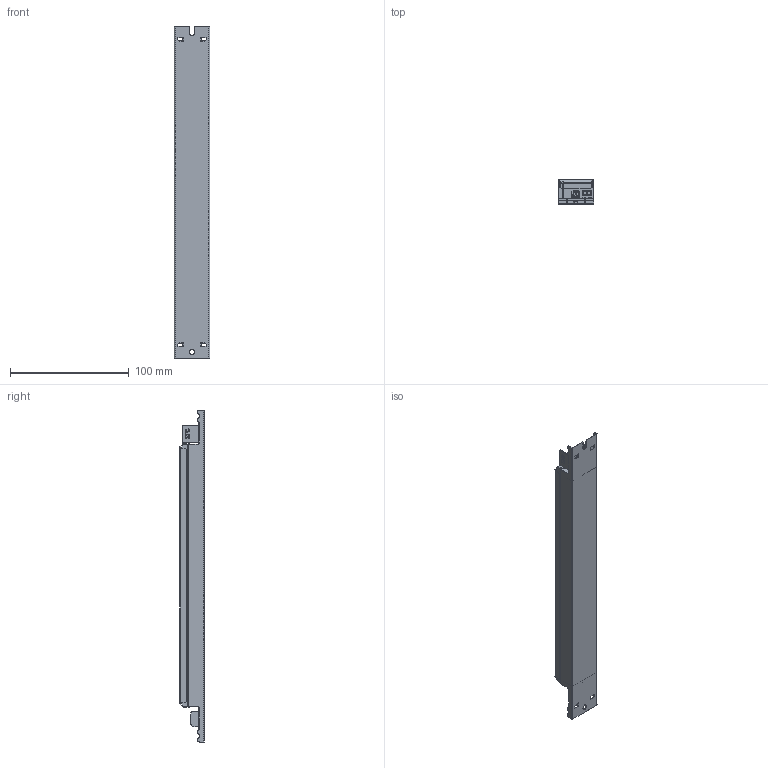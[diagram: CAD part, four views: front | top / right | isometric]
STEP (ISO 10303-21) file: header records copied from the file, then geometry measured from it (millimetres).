
FILE_DESCRIPTION (( 'STEP AP203' ), '1' );
FILE_NAME ('T5802.STEP', '2025-11-27T17:28:08', ( '' ), ( '' ), 'SwSTEP 2.0', 'SolidWorks 2022', '' );
FILE_SCHEMA (( 'CONFIG_CONTROL_DESIGN' ));
Length unit declared in the file: millimetre
Products named in the file (5): Liitturikotelo_280; 744-304_2pole; 744-304_3pole; T5802; 2pole dippi
Assembly tree (4 placements, depth 2):
  T5802
    Liitturikotelo_280
    2pole dippi
    744-304_2pole
    744-304_3pole
Bounding box: 30 x 21 x 280 mm (x, y, z)
Volume: 138771.8 mm3; surface area: 34957.1 mm2
Topology: 6 solids, 6 shells, 1242 faces, 3471 edges, 2229 vertices
Faces by surface type: plane 858, cylinder 289, bspline 44, torus 30, cone 21
Entity records: 42139 total; most frequent: CARTESIAN_POINT 9814, ORIENTED_EDGE 6942, DIRECTION 6254, EDGE_CURVE 3471, VECTOR 2624, LINE 2624, VERTEX_POINT 2229, AXIS2_PLACEMENT_3D 1815
